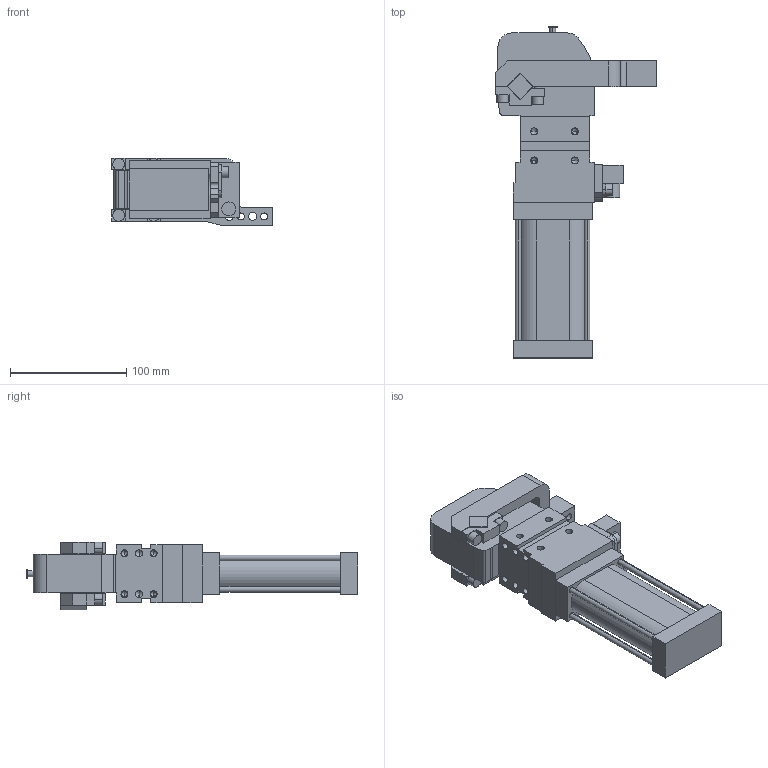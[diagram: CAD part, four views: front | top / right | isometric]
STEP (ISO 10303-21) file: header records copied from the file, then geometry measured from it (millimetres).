
FILE_DESCRIPTION (( 'STEP AP214' ), '1' );
FILE_NAME ('cpl40v2dsi1g_19.STEP', '2021-05-25T10:37:49', ( '' ), ( '' ), 'SwSTEP 2.0', 'SolidWorks 2021', '' );
FILE_SCHEMA (( 'AUTOMOTIVE_DESIGN' ));
Length unit declared in the file: millimetre
Products named in the file (5): meccanica_cpl40; leva_v2s_cpl40; cpl40v2dsi1g_19; blocchetto_VEP_0_cpl40; piastra_blocchetto_cpl40
Assembly tree (4 placements, depth 2):
  cpl40v2dsi1g_19
    meccanica_cpl40
    blocchetto_VEP_0_cpl40
    piastra_blocchetto_cpl40
    leva_v2s_cpl40
Bounding box: 138 x 285 x 58 mm (x, y, z)
Volume: 766996.9 mm3; surface area: 116235.2 mm2
Topology: 5 solids, 5 shells, 403 faces, 1025 edges, 639 vertices
Faces by surface type: plane 214, cylinder 141, cone 48
Entity records: 13408 total; most frequent: DIRECTION 2111, CARTESIAN_POINT 2028, ORIENTED_EDGE 1958, EDGE_CURVE 979, AXIS2_PLACEMENT_3D 722, VECTOR 667, LINE 667, VERTEX_POINT 639
